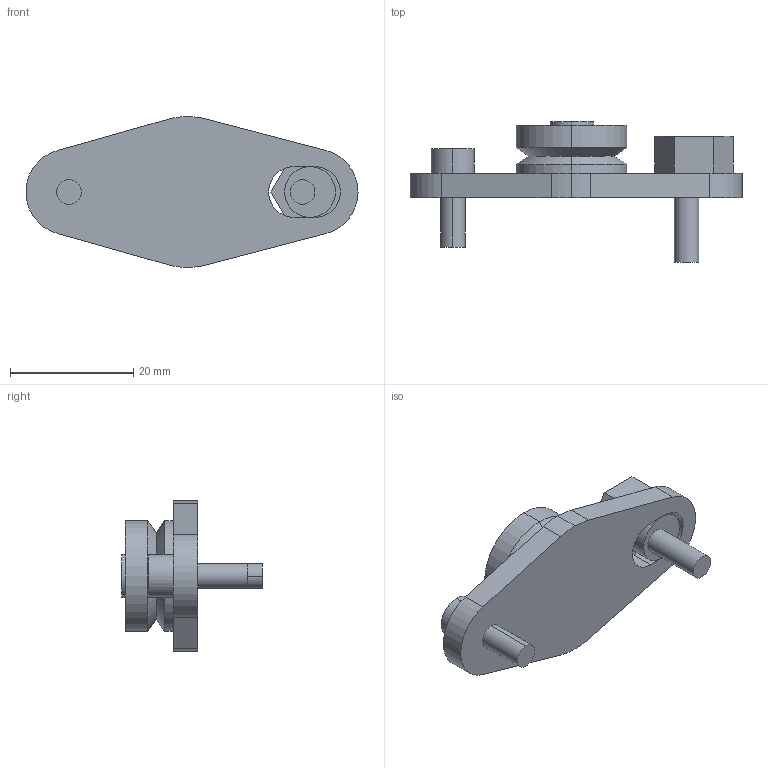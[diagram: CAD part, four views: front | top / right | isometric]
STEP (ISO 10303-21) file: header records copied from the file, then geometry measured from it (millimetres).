
FILE_DESCRIPTION(('STEP AP203'),'1');
FILE_NAME('bhj_18_e_ns.stp','2021-09-29T06:31:39',('TraceParts'),('TraceParts S.A.'),'Spatial InterOp 3D',' ',' ');
FILE_SCHEMA(('CONFIG_CONTROL_DESIGN'));
Length unit declared in the file: millimetre
Products named in the file (1): 1
Bounding box: 53.97 x 22.9 x 24.5 mm (x, y, z)
Volume: 6506 mm3; surface area: 3853.2 mm2
Topology: 2 solids, 2 shells, 72 faces, 168 edges, 110 vertices
Faces by surface type: plane 44, cylinder 24, cone 4
Entity records: 2106 total; most frequent: DIRECTION 366, CARTESIAN_POINT 352, ORIENTED_EDGE 336, EDGE_CURVE 168, AXIS2_PLACEMENT_3D 124, LINE 118, VECTOR 118, VERTEX_POINT 110
